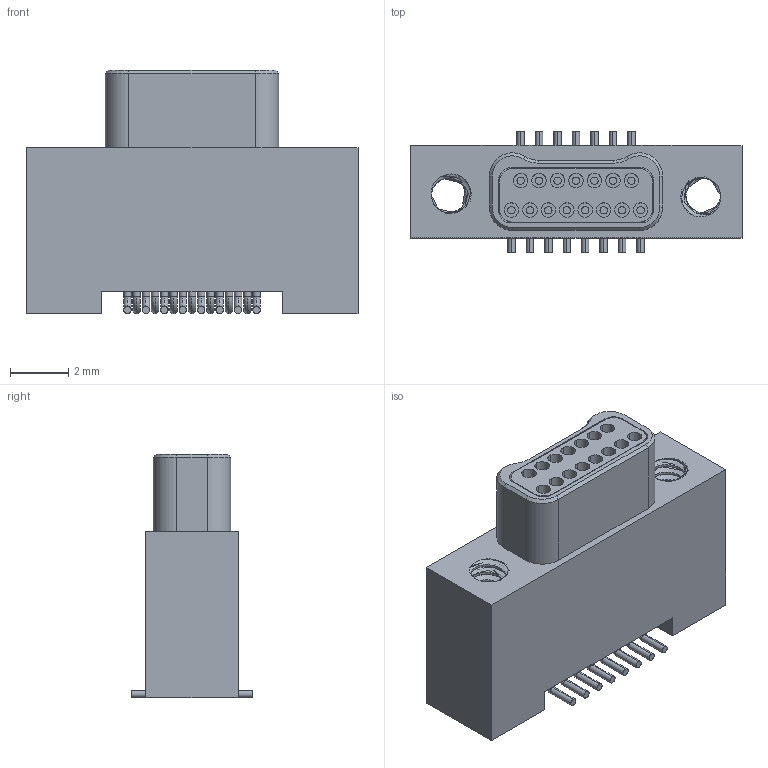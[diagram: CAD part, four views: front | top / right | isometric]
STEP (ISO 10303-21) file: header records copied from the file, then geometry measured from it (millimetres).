
FILE_DESCRIPTION (( 'STEP AP214' ), '1' );
FILE_NAME ('A28200-015 REV G.STEP', '2015-11-04T16:10:47', ( '' ), ( '' ), 'SwSTEP 2.0', 'SolidWorks 2015', '' );
FILE_SCHEMA (( 'AUTOMOTIVE_DESIGN' ));
Length unit declared in the file: inch
Products named in the file (1): A28200-015
Bounding box: 11.43 x 4.19 x 8.38 mm (x, y, z)
Volume: 202.2 mm3; surface area: 574.3 mm2
Topology: 1 solids, 1 shells, 538 faces, 1341 edges, 880 vertices
Faces by surface type: cylinder 238, plane 202, bspline 54, torus 30, cone 14
Entity records: 25213 total; most frequent: CARTESIAN_POINT 11810, ORIENTED_EDGE 2682, DIRECTION 2447, EDGE_CURVE 1341, AXIS2_PLACEMENT_3D 895, VERTEX_POINT 880, LINE 657, VECTOR 657
